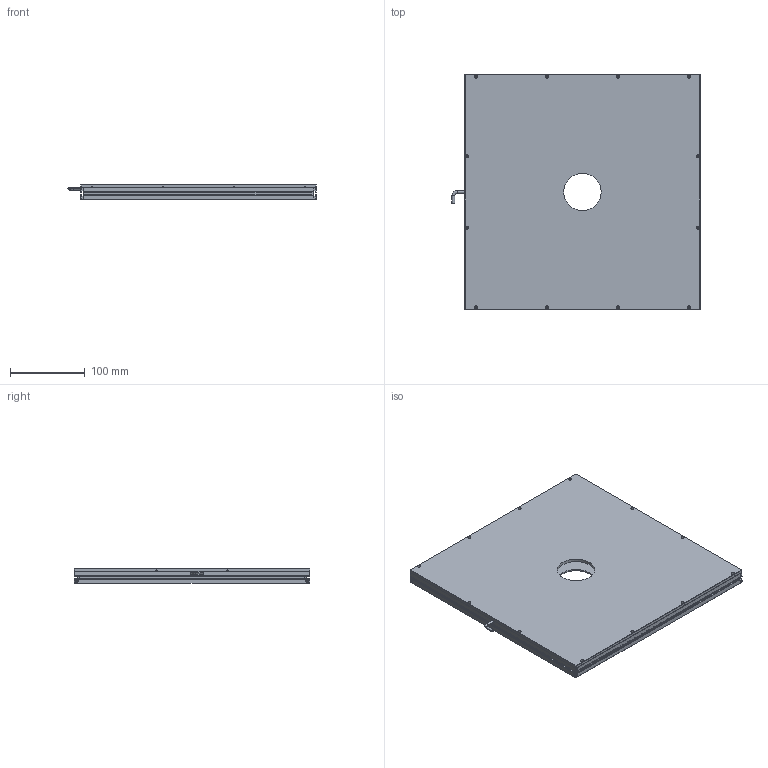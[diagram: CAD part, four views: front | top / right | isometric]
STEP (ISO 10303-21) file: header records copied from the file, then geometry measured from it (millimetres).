
FILE_DESCRIPTION (( 'STEP AP203' ), '1' );
FILE_NAME ('CRT-2KFLD300300Y50-¼òÒ×3DÍ¼.STEP', '2021-11-24T06:31:47', ( 'Admin' ), ( '' ), 'SwSTEP 2.0', 'SolidWorks 2018', '' );
FILE_SCHEMA (( 'CONFIG_CONTROL_DESIGN' ));
Length unit declared in the file: millimetre
Products named in the file (1): CRT-2KFLD300300Y50-潠眢3D芞
Bounding box: 331.25 x 314 x 20 mm (x, y, z)
Surface area: 509935.5 mm2 (no closed solid volume)
Topology: 0 solids, 8 shells, 184 faces, 692 edges, 498 vertices
Faces by surface type: plane 88, cylinder 85, cone 9, bspline 2
Entity records: 7520 total; most frequent: CARTESIAN_POINT 1509, DIRECTION 1292, ORIENTED_EDGE 1070, EDGE_CURVE 692, VERTEX_POINT 498, AXIS2_PLACEMENT_3D 437, LINE 418, VECTOR 418
